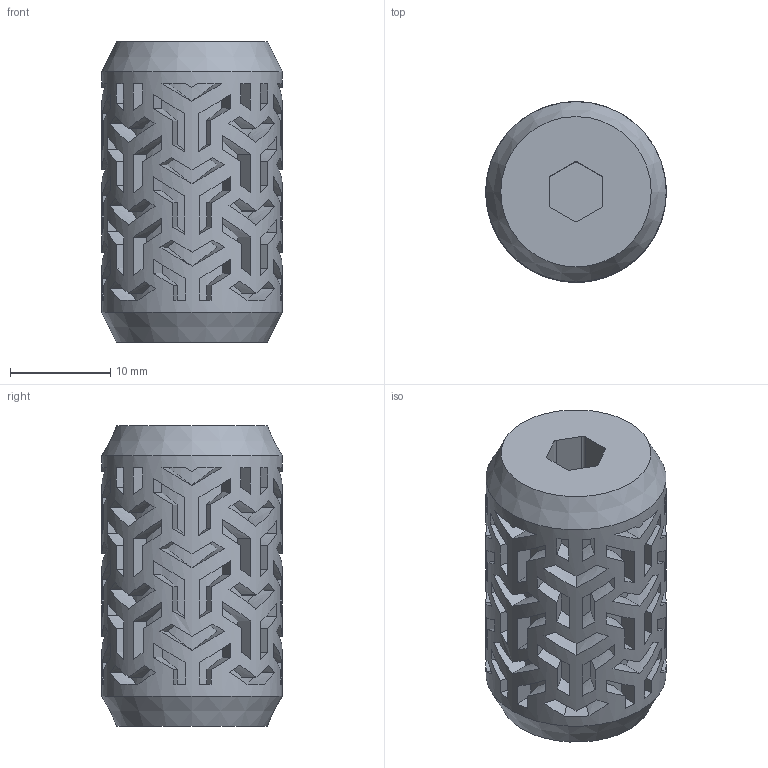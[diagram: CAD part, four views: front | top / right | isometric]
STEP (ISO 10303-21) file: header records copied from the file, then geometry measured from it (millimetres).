
FILE_DESCRIPTION(/* description */ (''),/* implementation_level */ '2;1');
FILE_NAME(/* name */ 'D:/Pew Pews/FGC-9_MkII_Stingray_Edition/Stingray Edition/.step files/1 - Upper/Charging Handle.step',/* time_stamp */ '2022-05-11T21:18:21-06:00',/* author */ (''),/* organization */ (''),/* preprocessor_version */ 'ST-DEVELOPER v18.1',/* originating_system */ 'Autodesk Translation Framework v10.10.0.1391',/* authorisation */ '');
FILE_SCHEMA (('AUTOMOTIVE_DESIGN { 1 0 10303 214 3 1 1 }'));
Length unit declared in the file: millimetre
Products named in the file (1): Charging handle tri stip edition
Bounding box: 18 x 18 x 30 mm (x, y, z)
Volume: 6034.8 mm3; surface area: 4218.6 mm2
Topology: 1 solids, 1 shells, 534 faces, 1383 edges, 921 vertices
Faces by surface type: bspline 260, plane 193, cylinder 79, cone 2
Full cylindrical faces by diameter (mm): 18 x1
Entity records: 19772 total; most frequent: CARTESIAN_POINT 8431, ORIENTED_EDGE 2766, DIRECTION 1458, EDGE_CURVE 1383, VERTEX_POINT 921, LINE 762, VECTOR 762, EDGE_LOOP 604
